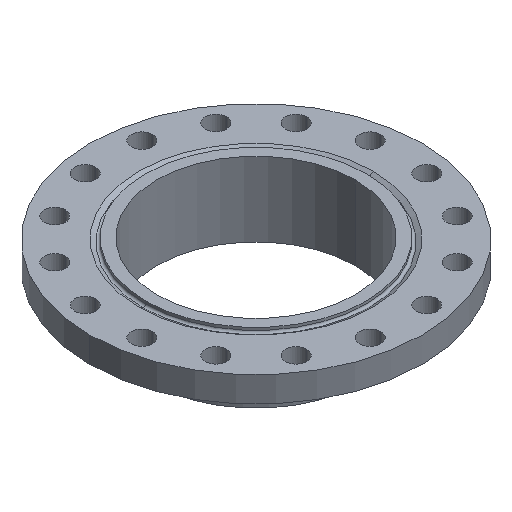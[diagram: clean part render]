
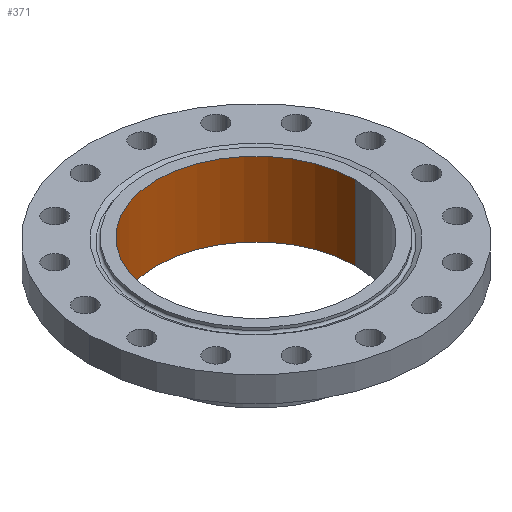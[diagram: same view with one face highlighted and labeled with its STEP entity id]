
A CAD part, isometric view. The second image highlights one B-rep face of the part: STEP entity #371.
In plain terms, the highlighted cylindrical face has radius 153.95 mm (diameter 307.9 mm), a partial arc.
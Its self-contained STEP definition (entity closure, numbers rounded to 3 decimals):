
#61 = CARTESIAN_POINT ( 'NONE',  ( -153.95, 0., -115. ) ) ;
#150 = DIRECTION ( 'NONE',  ( 0., 0., -1. ) ) ;
#151 = CARTESIAN_POINT ( 'NONE',  ( 153.95, 0., -125. ) ) ;
#152 = LINE ( 'NONE', #151, #1418 ) ;
#355 = DIRECTION ( 'NONE',  ( 0., 0., -1. ) ) ;
#356 = CARTESIAN_POINT ( 'NONE',  ( -153.95, 0., -125. ) ) ;
#357 = LINE ( 'NONE', #356, #1289 ) ;
#371 = ADVANCED_FACE ( 'NONE', ( #749 ), #748, .F. ) ;
#410 = CARTESIAN_POINT ( 'NONE',  ( -153.95, 0., 0. ) ) ;
#420 = DIRECTION ( 'NONE',  ( -1., 0., 0. ) ) ;
#421 = DIRECTION ( 'NONE',  ( 0., 0., -1. ) ) ;
#424 = CARTESIAN_POINT ( 'NONE',  ( 0., 0., 0. ) ) ;
#468 = CARTESIAN_POINT ( 'NONE',  ( 153.95, 0., -115. ) ) ;
#690 = CIRCLE ( 'NONE', #691, 153.95 ) ;
#691 = AXIS2_PLACEMENT_3D ( 'NONE', #424, #421, #420 ) ;
#723 = EDGE_LOOP ( 'NONE', ( #1204, #1130, #1584, #1580 ) ) ;
#743 = DIRECTION ( 'NONE',  ( -1., 0., 0. ) ) ;
#744 = DIRECTION ( 'NONE',  ( 0., 0., -1. ) ) ;
#745 = CARTESIAN_POINT ( 'NONE',  ( 0., 0., -125. ) ) ;
#748 = CYLINDRICAL_SURFACE ( 'NONE', #1365, 153.95 ) ;
#749 = FACE_OUTER_BOUND ( 'NONE', #723, .T. ) ;
#919 = VERTEX_POINT ( 'NONE', #468 ) ;
#997 = EDGE_CURVE ( 'NONE', #1018, #1735, #690, .T. ) ;
#1018 = VERTEX_POINT ( 'NONE', #410 ) ;
#1112 = EDGE_CURVE ( 'NONE', #1018, #1773, #357, .T. ) ;
#1130 = ORIENTED_EDGE ( 'NONE', *, *, #997, .F. ) ;
#1160 = CIRCLE ( 'NONE', #1167, 153.95 ) ;
#1167 = AXIS2_PLACEMENT_3D ( 'NONE', #1221, #1216, #1263 ) ;
#1204 = ORIENTED_EDGE ( 'NONE', *, *, #1427, .F. ) ;
#1216 = DIRECTION ( 'NONE',  ( 0., 0., -1. ) ) ;
#1221 = CARTESIAN_POINT ( 'NONE',  ( 0., 0., -115. ) ) ;
#1263 = DIRECTION ( 'NONE',  ( -1., 0., 0. ) ) ;
#1289 = VECTOR ( 'NONE', #355, 1000. ) ;
#1365 = AXIS2_PLACEMENT_3D ( 'NONE', #745, #744, #743 ) ;
#1418 = VECTOR ( 'NONE', #150, 1000. ) ;
#1427 = EDGE_CURVE ( 'NONE', #1735, #919, #152, .T. ) ;
#1580 = ORIENTED_EDGE ( 'NONE', *, *, #1685, .T. ) ;
#1584 = ORIENTED_EDGE ( 'NONE', *, *, #1112, .T. ) ;
#1685 = EDGE_CURVE ( 'NONE', #1773, #919, #1160, .T. ) ;
#1735 = VERTEX_POINT ( 'NONE', #1785 ) ;
#1773 = VERTEX_POINT ( 'NONE', #61 ) ;
#1785 = CARTESIAN_POINT ( 'NONE',  ( 153.95, 0., 0. ) ) ;
